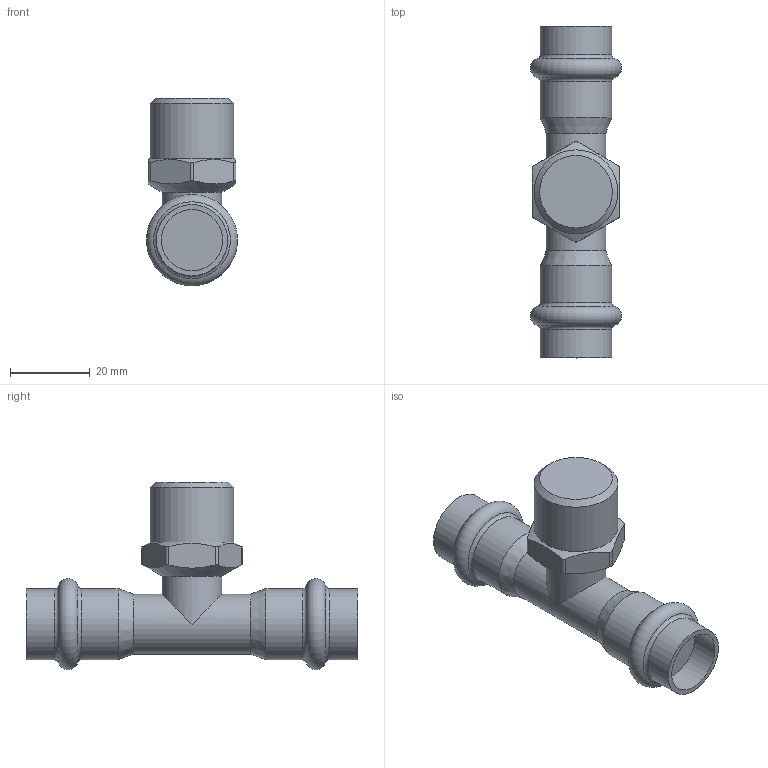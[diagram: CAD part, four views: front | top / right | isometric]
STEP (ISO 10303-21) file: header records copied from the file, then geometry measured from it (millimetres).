
FILE_DESCRIPTION(('STEP AP203'), '1');
FILE_NAME('VTi.933.I.150415', '', ('UNSPECIFIED'), ('UNSPECIFIED'), 'C3D Converter', 'C3D Toolkit', '');
FILE_SCHEMA(('CONFIG_CONTROL_DESIGN'));
Length unit declared in the file: millimetre
Bounding box: 22.8 x 83 x 46.9 mm (x, y, z)
Volume: 26217 mm3; surface area: 8144.4 mm2
Topology: 1 solids, 1 shells, 37 faces, 85 edges, 52 vertices
Faces by surface type: cylinder 15, plane 11, torus 6, cone 5
Full cylindrical faces by diameter (mm): 15 x2, 15.3 x2, 17.8 x4, 20.955 x1
Entity records: 1714 total; most frequent: CARTESIAN_POINT 968, DIRECTION 132, ORIENTED_EDGE 128, EDGE_CURVE 64, AXIS2_PLACEMENT_3D 60, EDGE_LOOP 60, VERTEX_POINT 52, ADVANCED_FACE 37
